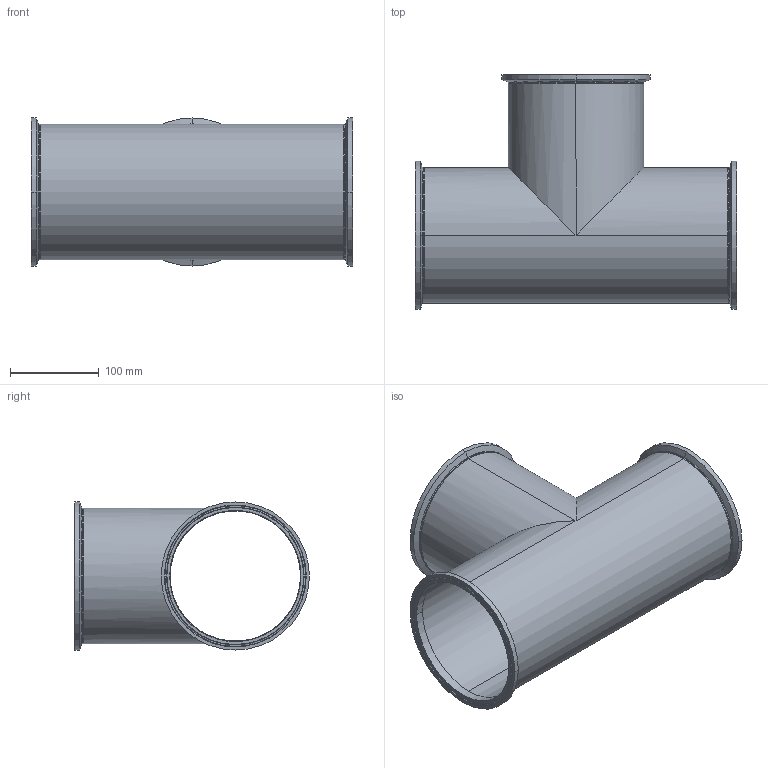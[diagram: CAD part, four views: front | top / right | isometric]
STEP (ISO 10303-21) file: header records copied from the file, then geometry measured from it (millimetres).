
FILE_DESCRIPTION (( 'STEP AP214' ), '1' );
FILE_NAME ('TEG76L6.0-...STEP', '2016-05-23T07:08:56', ( 'eran' ), ( '' ), 'SwSTEP 2.0', 'SolidWorks 2016', '' );
FILE_SCHEMA (( 'AUTOMOTIVE_DESIGN' ));
Length unit declared in the file: millimetre
Products named in the file (1): TEG76L6.0-..
Bounding box: 362 x 264.44 x 166.88 mm (x, y, z)
Volume: 650479.3 mm3; surface area: 452754.1 mm2
Topology: 4 solids, 4 shells, 88 faces, 220 edges, 142 vertices
Faces by surface type: bspline 30, cylinder 28, cone 18, plane 12
Entity records: 6898 total; most frequent: CARTESIAN_POINT 4744, DIRECTION 460, ORIENTED_EDGE 440, EDGE_CURVE 220, AXIS2_PLACEMENT_3D 206, CIRCLE 147, VERTEX_POINT 142, EDGE_LOOP 100
